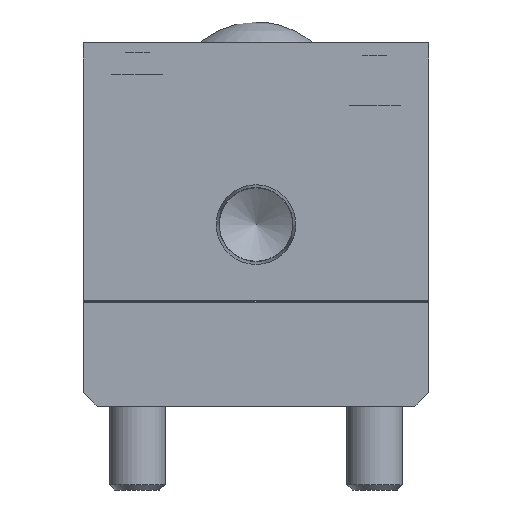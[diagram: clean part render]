
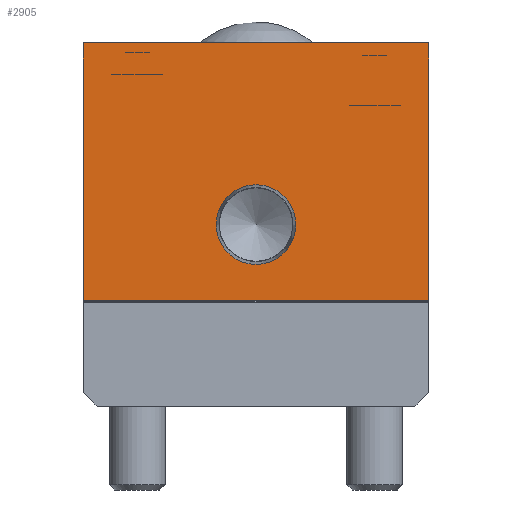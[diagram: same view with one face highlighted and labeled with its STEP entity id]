
A CAD part, front view. The second image highlights one B-rep face of the part: STEP entity #2905.
In plain terms, the highlighted planar face has unit normal (0, -1, 0).
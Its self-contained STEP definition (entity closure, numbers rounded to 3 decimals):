
#219=FACE_BOUND('',#678,.T.);
#298=CIRCLE('',#3089,5.704);
#464=FACE_OUTER_BOUND('',#677,.T.);
#677=EDGE_LOOP('',(#2134,#2135,#2136,#2137));
#678=EDGE_LOOP('',(#2138));
#951=LINE('',#4355,#1169);
#954=LINE('',#4360,#1172);
#956=LINE('',#4368,#1174);
#970=LINE('',#4404,#1188);
#1169=VECTOR('',#3509,36.9);
#1172=VECTOR('',#3514,49.5);
#1174=VECTOR('',#3522,36.9);
#1188=VECTOR('',#3566,49.5);
#1370=VERTEX_POINT('',#4352);
#1371=VERTEX_POINT('',#4354);
#1372=VERTEX_POINT('',#4358);
#1375=VERTEX_POINT('',#4366);
#1379=VERTEX_POINT('',#4380);
#1640=EDGE_CURVE('',#1371,#1370,#951,.T.);
#1643=EDGE_CURVE('',#1370,#1372,#954,.T.);
#1647=EDGE_CURVE('',#1375,#1372,#956,.T.);
#1652=EDGE_CURVE('',#1379,#1379,#298,.T.);
#1665=EDGE_CURVE('',#1375,#1371,#970,.T.);
#2134=ORIENTED_EDGE('',*,*,#1665,.T.);
#2135=ORIENTED_EDGE('',*,*,#1640,.T.);
#2136=ORIENTED_EDGE('',*,*,#1643,.T.);
#2137=ORIENTED_EDGE('',*,*,#1647,.F.);
#2138=ORIENTED_EDGE('',*,*,#1652,.T.);
#2625=PLANE('',#3122);
#2905=ADVANCED_FACE('',(#464,#219),#2625,.T.);
#3089=AXIS2_PLACEMENT_3D('',#4381,#3537,#3538);
#3122=AXIS2_PLACEMENT_3D('',#4442,#3620,#3621);
#3509=DIRECTION('',(0.,0.,1.));
#3514=DIRECTION('',(-1.,0.,0.));
#3522=DIRECTION('',(0.,0.,1.));
#3537=DIRECTION('center_axis',(0.,1.,0.));
#3538=DIRECTION('ref_axis',(1.,0.,0.));
#3566=DIRECTION('',(1.,0.,0.));
#3620=DIRECTION('center_axis',(0.,-1.,0.));
#3621=DIRECTION('ref_axis',(0.,0.,-1.));
#4352=CARTESIAN_POINT('',(24.75,0.,52.));
#4354=CARTESIAN_POINT('',(24.75,0.,15.1));
#4355=CARTESIAN_POINT('',(24.75,0.,0.));
#4358=CARTESIAN_POINT('',(-24.75,0.,52.));
#4360=CARTESIAN_POINT('',(24.75,0.,52.));
#4366=CARTESIAN_POINT('',(-24.75,0.,15.1));
#4368=CARTESIAN_POINT('',(-24.75,0.,0.));
#4380=CARTESIAN_POINT('',(5.704,0.,26.));
#4381=CARTESIAN_POINT('Origin',(0.,0.,26.));
#4404=CARTESIAN_POINT('',(24.75,0.,15.1));
#4442=CARTESIAN_POINT('Origin',(24.75,0.,0.));
